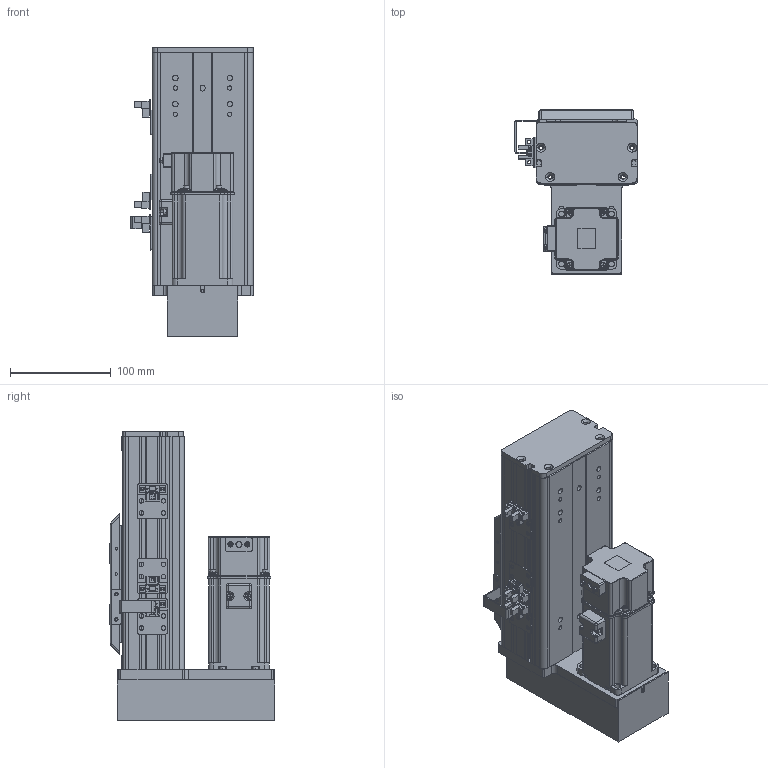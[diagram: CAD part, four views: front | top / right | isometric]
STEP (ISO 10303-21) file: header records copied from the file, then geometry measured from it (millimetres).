
FILE_DESCRIPTION (( 'STEP AP203' ), '1' );
FILE_NAME ('BOSW100-50-1610-1P-DM-M400W-O-S3（方程式2016）.step', '2020-10-10T06:38:34', ( '' ), ( '' ), 'SwSTEP 2.0', 'SolidWorks 2016', '' );
FILE_SCHEMA (( 'CONFIG_CONTROL_DESIGN' ));
Length unit declared in the file: millimetre
Products named in the file (14): BOSW-100-1P-DM-50諦誧芞; BOSW&TW-100-詩湍揤沭(陔賦凳); BOSW-100-1P-DM-宽轨-钢带-50客户图纸; BOSW-100-綴裔啣; 新结构AIMSW-100-1P-宽&高轨共用-滑动座上组件; BOSW&TW-100-1P-賑雄釱欶; BOSW100-50-1610-1P-DM-M400W-O-S3（方程式2016）; 俋境嫖覜嘐隅啣; S400W(SMA-L040); BOSW-100-1P-DM-宽轨-侧板-50客户图纸; 放大器内置U型微型光电传感器PM-L65; BOS-100-DM鎮湛假蚾啣; BOS100-DM鎮湛欶; BOSW&TW-100-俋离覜茼え
Assembly tree (19 placements, depth 2):
  BOSW100-50-1610-1P-DM-M400W-O-S3（方程式2016）
    BOSW-100-1P-DM-50諦誧芞
    BOSW-100-綴裔啣
    新结构AIMSW-100-1P-宽&高轨共用-滑动座上组件
    S400W(SMA-L040)
    BOSW&TW-100-詩湍揤沭(陔賦凳)  x2
    BOSW&TW-100-1P-賑雄釱欶
    BOSW&TW-100-俋离覜茼え
    俋境嫖覜嘐隅啣  x3
    放大器内置U型微型光电传感器PM-L65  x3
    BOSW-100-1P-DM-宽轨-侧板-50客户图纸  x2
    BOSW-100-1P-DM-宽轨-钢带-50客户图纸
    BOS100-DM鎮湛欶
    BOS-100-DM鎮湛假蚾啣
Bounding box: 120.9 x 164 x 286 mm (x, y, z)
Volume: 869559.1 mm3; surface area: 449933.5 mm2
Topology: 19 solids, 19 shells, 2498 faces, 6572 edges, 4197 vertices
Faces by surface type: plane 1259, cylinder 763, bspline 271, cone 157, torus 36, sphere 12
Entity records: 68167 total; most frequent: CARTESIAN_POINT 20530, ORIENTED_EDGE 9700, DIRECTION 9358, EDGE_CURVE 4850, AXIS2_PLACEMENT_3D 3286, VERTEX_POINT 3099, LINE 2786, VECTOR 2786
